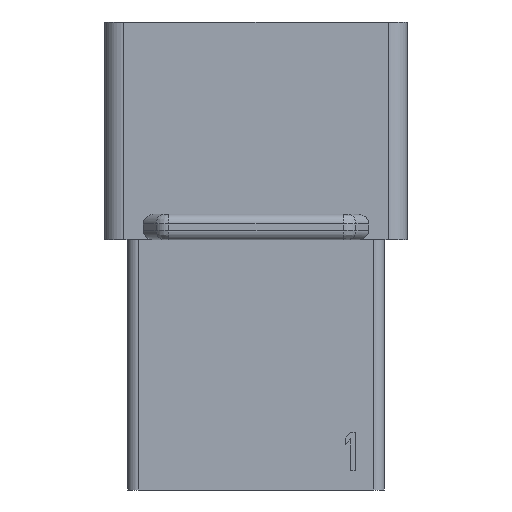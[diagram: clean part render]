
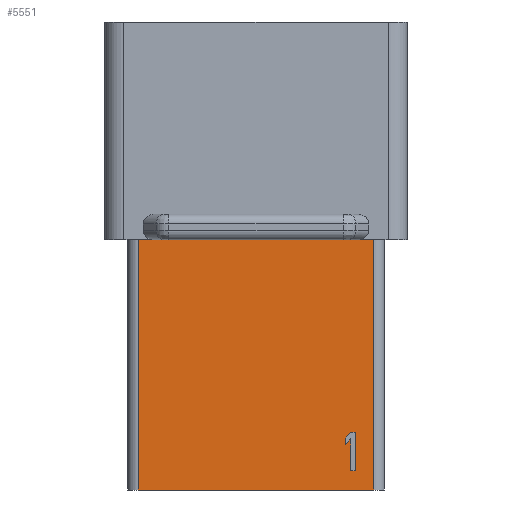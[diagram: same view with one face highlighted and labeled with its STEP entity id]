
A CAD part, front view. The second image highlights one B-rep face of the part: STEP entity #5551.
In plain terms, the highlighted planar face has unit normal (0, -1, 0).
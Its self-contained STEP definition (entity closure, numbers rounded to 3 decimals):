
#1530=DIRECTION('',(1.,0.,0.));
#1531=VECTOR('',#1530,18.4);
#1532=CARTESIAN_POINT('',(-9.2,-6.25,-17.));
#1533=LINE('',#1532,#1531);
#1598=DIRECTION('',(0.,0.,1.));
#1599=VECTOR('',#1598,19.5);
#1600=CARTESIAN_POINT('',(-9.2,-6.25,-36.5));
#1601=LINE('',#1600,#1599);
#1602=DIRECTION('',(0.,0.,-1.));
#1603=VECTOR('',#1602,19.5);
#1604=CARTESIAN_POINT('',(9.2,-6.25,-17.));
#1605=LINE('',#1604,#1603);
#1606=DIRECTION('',(0.,0.,1.));
#1607=VECTOR('',#1606,3.);
#1608=CARTESIAN_POINT('',(7.75,-6.25,-35.));
#1609=LINE('',#1608,#1607);
#1610=DIRECTION('',(-1.,0.,0.));
#1611=VECTOR('',#1610,0.375);
#1612=CARTESIAN_POINT('',(7.75,-6.25,-32.));
#1613=LINE('',#1612,#1611);
#1614=DIRECTION('',(-0.643,0.,-0.766));
#1615=VECTOR('',#1614,0.583);
#1616=CARTESIAN_POINT('',(7.375,-6.25,-32.));
#1617=LINE('',#1616,#1615);
#1618=DIRECTION('',(0.,0.,-1.));
#1619=VECTOR('',#1618,0.511);
#1620=CARTESIAN_POINT('',(7.,-6.25,-32.447));
#1621=LINE('',#1620,#1619);
#1622=DIRECTION('',(0.643,0.,0.766));
#1623=VECTOR('',#1622,0.583);
#1624=CARTESIAN_POINT('',(7.,-6.25,-32.957));
#1625=LINE('',#1624,#1623);
#1626=DIRECTION('',(0.,0.,-1.));
#1627=VECTOR('',#1626,2.489);
#1628=CARTESIAN_POINT('',(7.375,-6.25,-32.511));
#1629=LINE('',#1628,#1627);
#1630=DIRECTION('',(1.,0.,0.));
#1631=VECTOR('',#1630,0.375);
#1632=CARTESIAN_POINT('',(7.375,-6.25,-35.));
#1633=LINE('',#1632,#1631);
#1729=DIRECTION('',(1.,0.,0.));
#1730=VECTOR('',#1729,18.4);
#1731=CARTESIAN_POINT('',(-9.2,-6.25,-36.5));
#1732=LINE('',#1731,#1730);
#2888=CARTESIAN_POINT('',(7.75,-6.25,-35.));
#2889=CARTESIAN_POINT('',(7.75,-6.25,-32.));
#2890=VERTEX_POINT('',#2888);
#2891=VERTEX_POINT('',#2889);
#2892=CARTESIAN_POINT('',(7.375,-6.25,-32.));
#2893=VERTEX_POINT('',#2892);
#2894=CARTESIAN_POINT('',(7.,-6.25,-32.447));
#2895=VERTEX_POINT('',#2894);
#2896=CARTESIAN_POINT('',(7.,-6.25,-32.957));
#2897=VERTEX_POINT('',#2896);
#2898=CARTESIAN_POINT('',(7.375,-6.25,-32.511));
#2899=VERTEX_POINT('',#2898);
#2900=CARTESIAN_POINT('',(7.375,-6.25,-35.));
#2901=VERTEX_POINT('',#2900);
#2996=CARTESIAN_POINT('',(9.2,-6.25,-17.));
#2998=VERTEX_POINT('',#2996);
#3001=CARTESIAN_POINT('',(-9.2,-6.25,-17.));
#3003=VERTEX_POINT('',#3001);
#3366=CARTESIAN_POINT('',(-9.2,-6.25,-36.5));
#3367=VERTEX_POINT('',#3366);
#3371=CARTESIAN_POINT('',(9.2,-6.25,-36.5));
#3373=VERTEX_POINT('',#3371);
#5521=CARTESIAN_POINT('',(-10.,-6.25,-17.));
#5522=DIRECTION('',(0.,-1.,0.));
#5523=DIRECTION('',(0.,0.,-1.));
#5524=AXIS2_PLACEMENT_3D('',#5521,#5522,#5523);
#5525=PLANE('',#5524);
#5527=ORIENTED_EDGE('',*,*,#5526,.T.);
#5528=ORIENTED_EDGE('',*,*,#5475,.T.);
#5530=ORIENTED_EDGE('',*,*,#5529,.T.);
#5532=ORIENTED_EDGE('',*,*,#5531,.F.);
#5533=EDGE_LOOP('',(#5527,#5528,#5530,#5532));
#5534=FACE_OUTER_BOUND('',#5533,.F.);
#5536=ORIENTED_EDGE('',*,*,#5535,.T.);
#5538=ORIENTED_EDGE('',*,*,#5537,.T.);
#5540=ORIENTED_EDGE('',*,*,#5539,.T.);
#5542=ORIENTED_EDGE('',*,*,#5541,.T.);
#5544=ORIENTED_EDGE('',*,*,#5543,.T.);
#5546=ORIENTED_EDGE('',*,*,#5545,.T.);
#5548=ORIENTED_EDGE('',*,*,#5547,.T.);
#5549=EDGE_LOOP('',(#5536,#5538,#5540,#5542,#5544,#5546,#5548));
#5550=FACE_BOUND('',#5549,.F.);
#5551=ADVANCED_FACE('',(#5534,#5550),#5525,.T.);
#5475=EDGE_CURVE('',#3003,#2998,#1533,.T.);
#5526=EDGE_CURVE('',#3367,#3003,#1601,.T.);
#5529=EDGE_CURVE('',#2998,#3373,#1605,.T.);
#5531=EDGE_CURVE('',#3367,#3373,#1732,.T.);
#5535=EDGE_CURVE('',#2890,#2891,#1609,.T.);
#5537=EDGE_CURVE('',#2891,#2893,#1613,.T.);
#5539=EDGE_CURVE('',#2893,#2895,#1617,.T.);
#5541=EDGE_CURVE('',#2895,#2897,#1621,.T.);
#5543=EDGE_CURVE('',#2897,#2899,#1625,.T.);
#5545=EDGE_CURVE('',#2899,#2901,#1629,.T.);
#5547=EDGE_CURVE('',#2901,#2890,#1633,.T.);
